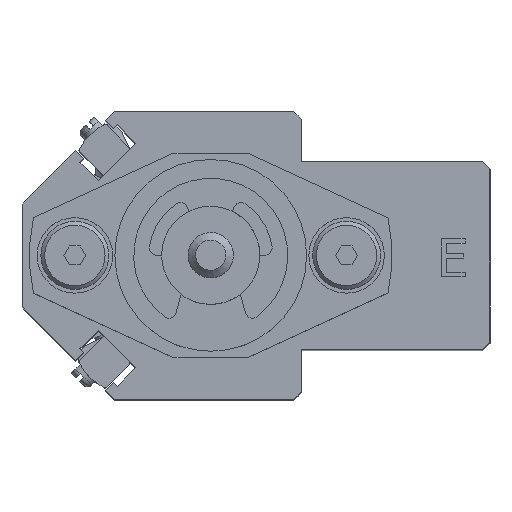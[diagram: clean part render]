
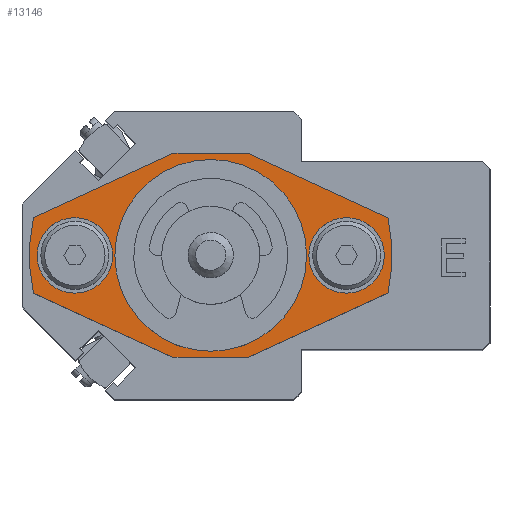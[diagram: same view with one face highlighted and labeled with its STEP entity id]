
A CAD part, top view. The second image highlights one B-rep face of the part: STEP entity #13146.
In plain terms, the highlighted planar face has unit normal (0, 0, 1).
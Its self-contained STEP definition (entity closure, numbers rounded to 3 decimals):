
#363=FACE_BOUND('',#4813,.T.);
#364=FACE_BOUND('',#4814,.T.);
#365=FACE_BOUND('',#4815,.T.);
#1538=LINE('',#21634,#2926);
#1545=LINE('',#21651,#2933);
#1546=LINE('',#21654,#2934);
#1547=LINE('',#21655,#2935);
#1548=LINE('',#21657,#2936);
#1549=LINE('',#21658,#2937);
#2926=VECTOR('',#17530,10.);
#2933=VECTOR('',#17545,10.);
#2934=VECTOR('',#17548,10.);
#2935=VECTOR('',#17549,10.);
#2936=VECTOR('',#17550,10.);
#2937=VECTOR('',#17551,10.);
#3414=CIRCLE('',#14414,10.5);
#3415=CIRCLE('',#14415,10.5);
#3422=CIRCLE('',#14426,24.);
#3424=CIRCLE('',#14429,24.);
#3427=CIRCLE('',#14436,5.);
#3428=CIRCLE('',#14437,5.);
#3429=CIRCLE('',#14438,5.);
#3430=CIRCLE('',#14439,5.);
#4115=FACE_OUTER_BOUND('',#4812,.T.);
#4812=EDGE_LOOP('',(#11040,#11041,#11042,#11043,#11044,#11045,#11046,#11047));
#4813=EDGE_LOOP('',(#11048,#11049));
#4814=EDGE_LOOP('',(#11050,#11051));
#4815=EDGE_LOOP('',(#11052,#11053));
#5980=VERTEX_POINT('',#21592);
#5981=VERTEX_POINT('',#21594);
#5989=VERTEX_POINT('',#21615);
#5990=VERTEX_POINT('',#21617);
#5993=VERTEX_POINT('',#21624);
#5994=VERTEX_POINT('',#21626);
#5996=VERTEX_POINT('',#21632);
#6002=VERTEX_POINT('',#21649);
#6003=VERTEX_POINT('',#21653);
#6004=VERTEX_POINT('',#21656);
#6005=VERTEX_POINT('',#21659);
#6006=VERTEX_POINT('',#21660);
#6007=VERTEX_POINT('',#21663);
#6008=VERTEX_POINT('',#21664);
#7721=EDGE_CURVE('',#5981,#5980,#3414,.T.);
#7722=EDGE_CURVE('',#5980,#5981,#3415,.T.);
#7731=EDGE_CURVE('',#5990,#5989,#3422,.T.);
#7735=EDGE_CURVE('',#5994,#5993,#3424,.T.);
#7739=EDGE_CURVE('',#5989,#5996,#1538,.T.);
#7748=EDGE_CURVE('',#5993,#6002,#1545,.T.);
#7749=EDGE_CURVE('',#5996,#6003,#1546,.T.);
#7750=EDGE_CURVE('',#6003,#5994,#1547,.T.);
#7751=EDGE_CURVE('',#6002,#6004,#1548,.T.);
#7752=EDGE_CURVE('',#6004,#5990,#1549,.T.);
#7753=EDGE_CURVE('',#6005,#6006,#3427,.T.);
#7754=EDGE_CURVE('',#6006,#6005,#3428,.T.);
#7755=EDGE_CURVE('',#6007,#6008,#3429,.T.);
#7756=EDGE_CURVE('',#6008,#6007,#3430,.T.);
#11040=ORIENTED_EDGE('',*,*,#7731,.T.);
#11041=ORIENTED_EDGE('',*,*,#7739,.T.);
#11042=ORIENTED_EDGE('',*,*,#7749,.T.);
#11043=ORIENTED_EDGE('',*,*,#7750,.T.);
#11044=ORIENTED_EDGE('',*,*,#7735,.T.);
#11045=ORIENTED_EDGE('',*,*,#7748,.T.);
#11046=ORIENTED_EDGE('',*,*,#7751,.T.);
#11047=ORIENTED_EDGE('',*,*,#7752,.T.);
#11048=ORIENTED_EDGE('',*,*,#7721,.T.);
#11049=ORIENTED_EDGE('',*,*,#7722,.T.);
#11050=ORIENTED_EDGE('',*,*,#7753,.T.);
#11051=ORIENTED_EDGE('',*,*,#7754,.T.);
#11052=ORIENTED_EDGE('',*,*,#7755,.T.);
#11053=ORIENTED_EDGE('',*,*,#7756,.T.);
#12341=PLANE('',#14435);
#13146=ADVANCED_FACE('',(#4115,#363,#364,#365),#12341,.T.);
#14414=AXIS2_PLACEMENT_3D('',#21595,#17489,#17490);
#14415=AXIS2_PLACEMENT_3D('',#21596,#17491,#17492);
#14426=AXIS2_PLACEMENT_3D('',#21618,#17515,#17516);
#14429=AXIS2_PLACEMENT_3D('',#21627,#17523,#17524);
#14435=AXIS2_PLACEMENT_3D('',#21652,#17546,#17547);
#14436=AXIS2_PLACEMENT_3D('',#21661,#17552,#17553);
#14437=AXIS2_PLACEMENT_3D('',#21662,#17554,#17555);
#14438=AXIS2_PLACEMENT_3D('',#21665,#17556,#17557);
#14439=AXIS2_PLACEMENT_3D('',#21666,#17558,#17559);
#17489=DIRECTION('center_axis',(0.,0.,-1.));
#17490=DIRECTION('ref_axis',(1.,0.,0.));
#17491=DIRECTION('center_axis',(0.,0.,-1.));
#17492=DIRECTION('ref_axis',(1.,0.,0.));
#17515=DIRECTION('center_axis',(0.,0.,1.));
#17516=DIRECTION('ref_axis',(0.978,-0.208,0.));
#17523=DIRECTION('center_axis',(0.,0.,1.));
#17524=DIRECTION('ref_axis',(-0.978,0.208,0.));
#17530=DIRECTION('',(0.908,-0.418,0.));
#17545=DIRECTION('',(-0.908,0.418,0.));
#17546=DIRECTION('center_axis',(0.,0.,1.));
#17547=DIRECTION('ref_axis',(1.,0.,0.));
#17548=DIRECTION('',(1.,0.,0.));
#17549=DIRECTION('',(0.908,0.418,0.));
#17550=DIRECTION('',(-1.,0.,0.));
#17551=DIRECTION('',(-0.908,-0.418,0.));
#17552=DIRECTION('center_axis',(0.,0.,-1.));
#17553=DIRECTION('ref_axis',(1.,0.,0.));
#17554=DIRECTION('center_axis',(0.,0.,-1.));
#17555=DIRECTION('ref_axis',(1.,0.,0.));
#17556=DIRECTION('center_axis',(0.,0.,-1.));
#17557=DIRECTION('ref_axis',(1.,0.,0.));
#17558=DIRECTION('center_axis',(0.,0.,-1.));
#17559=DIRECTION('ref_axis',(1.,0.,0.));
#21592=CARTESIAN_POINT('',(-10.5,0.,6.));
#21594=CARTESIAN_POINT('',(10.5,0.,6.));
#21595=CARTESIAN_POINT('Origin',(0.,0.,6.));
#21596=CARTESIAN_POINT('Origin',(0.,0.,6.));
#21615=CARTESIAN_POINT('',(-23.473,-5.001,6.));
#21617=CARTESIAN_POINT('',(-23.473,5.001,6.));
#21618=CARTESIAN_POINT('Origin',(0.,0.,6.));
#21624=CARTESIAN_POINT('',(23.473,5.001,6.));
#21626=CARTESIAN_POINT('',(23.473,-5.001,6.));
#21627=CARTESIAN_POINT('Origin',(0.,0.,6.));
#21632=CARTESIAN_POINT('',(-5.,-13.5,6.));
#21634=CARTESIAN_POINT('',(-15.7,-8.578,6.));
#21649=CARTESIAN_POINT('',(5.,13.5,6.));
#21651=CARTESIAN_POINT('',(15.7,8.578,6.));
#21652=CARTESIAN_POINT('Origin',(0.,0.,6.));
#21653=CARTESIAN_POINT('',(5.,-13.5,6.));
#21654=CARTESIAN_POINT('',(25.4,-13.5,6.));
#21655=CARTESIAN_POINT('',(15.7,-8.578,6.));
#21656=CARTESIAN_POINT('',(-5.,13.5,6.));
#21657=CARTESIAN_POINT('',(-25.4,13.5,6.));
#21658=CARTESIAN_POINT('',(-15.7,8.578,6.));
#21659=CARTESIAN_POINT('',(-13.,0.,6.));
#21660=CARTESIAN_POINT('',(-23.,0.,6.));
#21661=CARTESIAN_POINT('Origin',(-18.,0.,6.));
#21662=CARTESIAN_POINT('Origin',(-18.,0.,6.));
#21663=CARTESIAN_POINT('',(23.,0.,6.));
#21664=CARTESIAN_POINT('',(13.,0.,6.));
#21665=CARTESIAN_POINT('Origin',(18.,0.,6.));
#21666=CARTESIAN_POINT('Origin',(18.,0.,6.));
